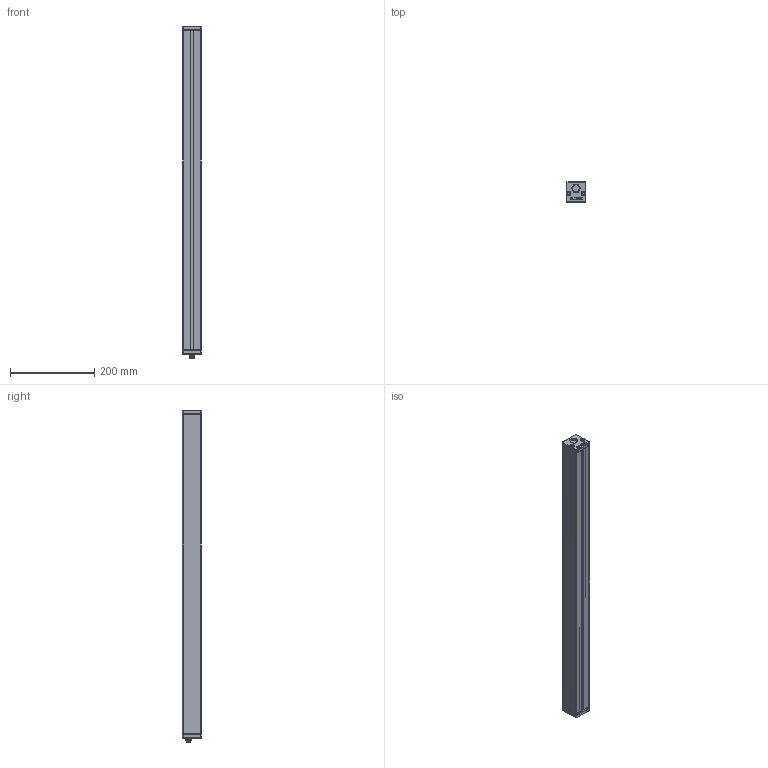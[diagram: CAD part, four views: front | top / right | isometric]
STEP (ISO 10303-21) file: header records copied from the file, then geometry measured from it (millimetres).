
FILE_DESCRIPTION (( 'STEP AP214' ), '1' );
FILE_NAME ('BLBAR 30.STEP', '2012-02-13T13:38:38', ( ' ' ), ( '' ), 'SwSTEP 2.0', 'SolidWorks 2009', '' );
FILE_SCHEMA (( 'AUTOMOTIVE_DESIGN' ));
Length unit declared in the file: millimetre
Products named in the file (1): BLBAR 30
Bounding box: 47.2 x 47 x 787.1 mm (x, y, z)
Volume: 400692.9 mm3; surface area: 396066 mm2
Topology: 1 solids, 3 shells, 599 faces, 1564 edges, 1007 vertices
Faces by surface type: plane 311, cylinder 156, bspline 66, torus 38, cone 20, sphere 8
Entity records: 34060 total; most frequent: CARTESIAN_POINT 13050, ORIENTED_EDGE 3096, DIRECTION 2810, EDGE_CURVE 1548, VERTEX_POINT 999, LINE 950, VECTOR 950, AXIS2_PLACEMENT_3D 930
